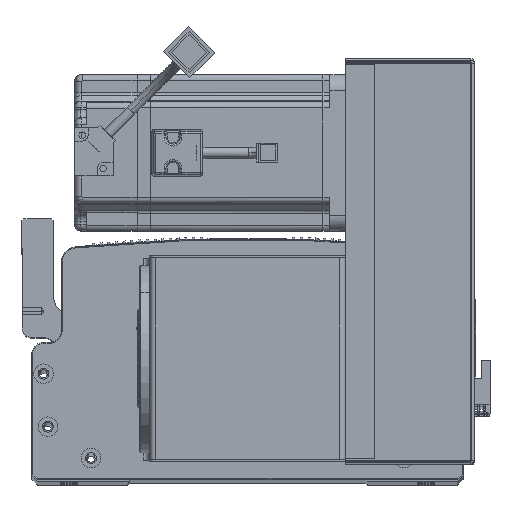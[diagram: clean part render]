
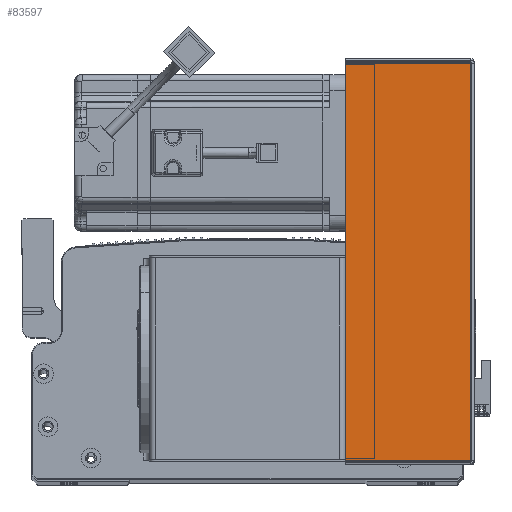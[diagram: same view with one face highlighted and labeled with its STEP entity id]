
A CAD part, top view. The second image highlights one B-rep face of the part: STEP entity #83597.
In plain terms, the highlighted planar face has unit normal (0, 0, 1) as drawn and (0, -1, 0) by its records, which use the part's own axes.
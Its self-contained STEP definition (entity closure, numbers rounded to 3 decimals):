
#343 = VERTEX_POINT ( 'NONE', #11343 ) ;
#955 = EDGE_CURVE ( 'NONE', #343, #22103, #1069, .T. ) ;
#1069 = LINE ( 'NONE', #10952, #34270 ) ;
#1387 = DIRECTION ( 'NONE',  ( 1., 0., 0. ) ) ;
#1683 = AXIS2_PLACEMENT_3D ( 'NONE', #31388, #4419, #57059 ) ;
#2733 = EDGE_CURVE ( 'NONE', #77119, #54651, #53540, .T. ) ;
#4419 = DIRECTION ( 'NONE',  ( 0., 1., 0. ) ) ;
#10952 = CARTESIAN_POINT ( 'NONE',  ( 0.737, -1.5, 0. ) ) ;
#11343 = CARTESIAN_POINT ( 'NONE',  ( 0.737, -1.5, -203.293 ) ) ;
#14167 = CARTESIAN_POINT ( 'NONE',  ( 0., -1.5, -203.293 ) ) ;
#20304 = DIRECTION ( 'NONE',  ( 1., 0., 0. ) ) ;
#22103 = VERTEX_POINT ( 'NONE', #80332 ) ;
#26181 = EDGE_LOOP ( 'NONE', ( #53136, #71296, #51942, #63721 ) ) ;
#26603 = LINE ( 'NONE', #42226, #67942 ) ;
#26877 = EDGE_CURVE ( 'NONE', #343, #77119, #74499, .T. ) ;
#31388 = CARTESIAN_POINT ( 'NONE',  ( 0., -1.5, 0. ) ) ;
#34270 = VECTOR ( 'NONE', #51739, 1000. ) ;
#42226 = CARTESIAN_POINT ( 'NONE',  ( 0., -1.5, -0.707 ) ) ;
#43510 = PLANE ( 'NONE',  #1683 ) ;
#45040 = FACE_OUTER_BOUND ( 'NONE', #26181, .T. ) ;
#47644 = VECTOR ( 'NONE', #20304, 1000. ) ;
#51739 = DIRECTION ( 'NONE',  ( 0., 0., 1. ) ) ;
#51942 = ORIENTED_EDGE ( 'NONE', *, *, #2733, .T. ) ;
#52296 = DIRECTION ( 'NONE',  ( 0., 0., 1. ) ) ;
#53136 = ORIENTED_EDGE ( 'NONE', *, *, #955, .F. ) ;
#53540 = LINE ( 'NONE', #78607, #57697 ) ;
#54651 = VERTEX_POINT ( 'NONE', #76332 ) ;
#57059 = DIRECTION ( 'NONE',  ( -1., 0., 0. ) ) ;
#57697 = VECTOR ( 'NONE', #52296, 1000. ) ;
#63721 = ORIENTED_EDGE ( 'NONE', *, *, #65353, .F. ) ;
#65072 = CARTESIAN_POINT ( 'NONE',  ( 64.5, -1.5, -203.293 ) ) ;
#65353 = EDGE_CURVE ( 'NONE', #22103, #54651, #26603, .T. ) ;
#67942 = VECTOR ( 'NONE', #1387, 1000. ) ;
#71296 = ORIENTED_EDGE ( 'NONE', *, *, #26877, .T. ) ;
#74499 = LINE ( 'NONE', #14167, #47644 ) ;
#76332 = CARTESIAN_POINT ( 'NONE',  ( 64.5, -1.5, -0.707 ) ) ;
#77119 = VERTEX_POINT ( 'NONE', #65072 ) ;
#78607 = CARTESIAN_POINT ( 'NONE',  ( 64.5, -1.5, 0. ) ) ;
#80332 = CARTESIAN_POINT ( 'NONE',  ( 0.737, -1.5, -0.707 ) ) ;
#83597 = ADVANCED_FACE ( 'NONE', ( #45040 ), #43510, .F. ) ;
